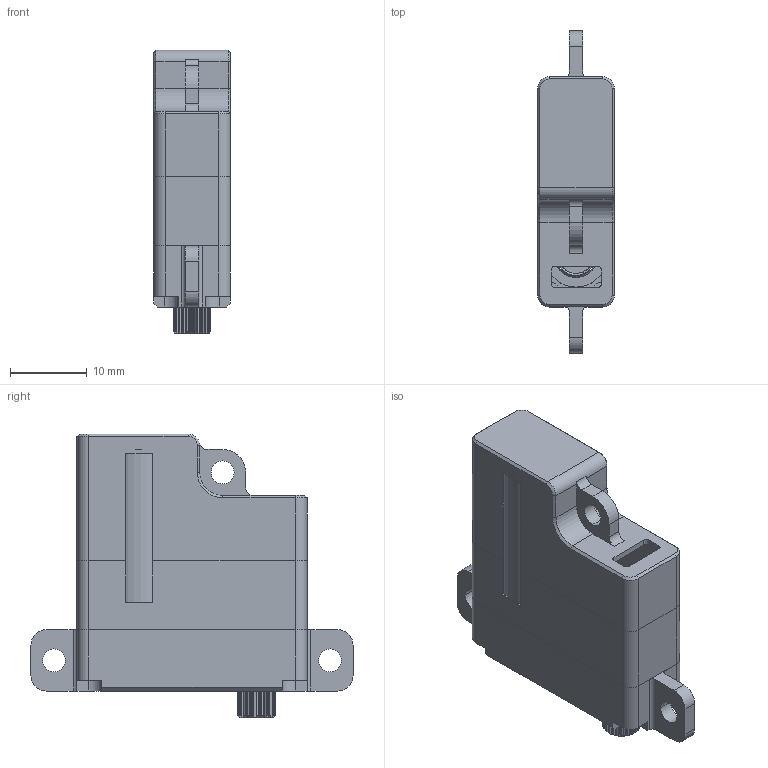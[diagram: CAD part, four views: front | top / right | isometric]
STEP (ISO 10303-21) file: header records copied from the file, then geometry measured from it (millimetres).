
FILE_DESCRIPTION (( 'STEP AP214' ), '1' );
FILE_NAME ('x10 ProA_DB_DM.STEP', '2023-11-08T06:33:05', ( '' ), ( '' ), 'SwSTEP 2.0', 'SolidWorks 2016', '' );
FILE_SCHEMA (( 'AUTOMOTIVE_DESIGN' ));
Length unit declared in the file: millimetre
Products named in the file (1): x10 ProA_DB_DM
Bounding box: 10 x 42 x 37 mm (x, y, z)
Surface area: 4571.4 mm2 (no closed solid volume)
Topology: 0 solids, 6 shells, 262 faces, 809 edges, 550 vertices
Faces by surface type: plane 121, cylinder 115, cone 26
Entity records: 12260 total; most frequent: CARTESIAN_POINT 2170, ORIENTED_EDGE 1490, DIRECTION 1475, EDGE_CURVE 809, VERTEX_POINT 550, AXIS2_PLACEMENT_3D 512, LINE 451, VECTOR 451
